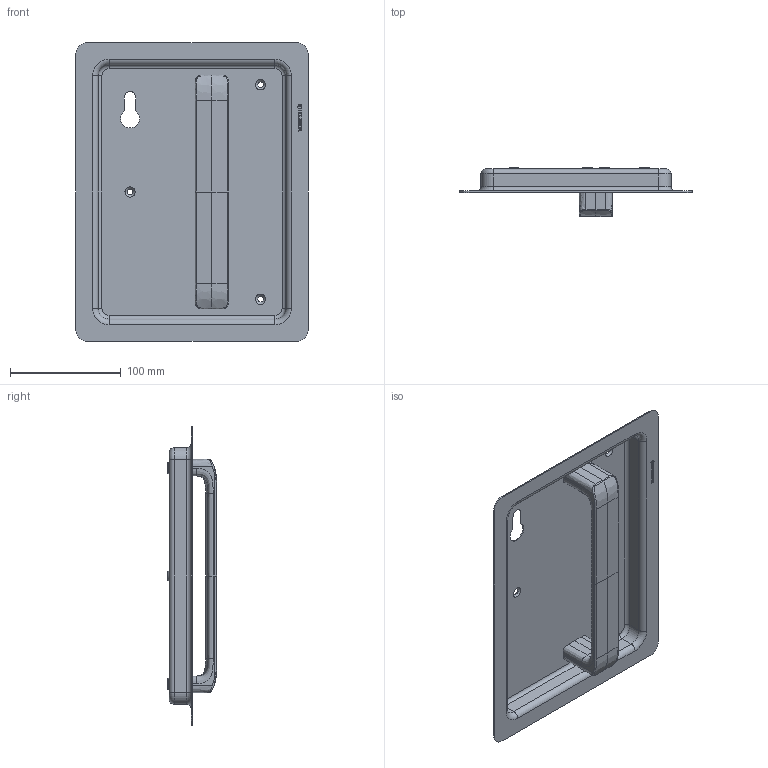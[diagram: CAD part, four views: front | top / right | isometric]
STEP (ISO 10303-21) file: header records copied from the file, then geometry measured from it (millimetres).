
FILE_DESCRIPTION(/* description */ (''),/* implementation_level */ '2;1');
FILE_NAME(/* name */ 'C:\ADSK_DMS_WS\Designs\Vorschläge\Loc Schalen\Heusser Muschel\Heusser-Muschel mit D6\Heusser-Muschel S6.20 mit D6\S6.20.D6.388L..stp',/* time_stamp */ '2025-04-11T10:17:55+02:00',/* author */ ('gm'),/* organization */ (''),/* preprocessor_version */ 'ST-DEVELOPER v17.2',/* originating_system */ 'Autodesk Inventor 2019',/* authorisation */ '');
FILE_SCHEMA (('AUTOMOTIVE_DESIGN { 1 0 10303 214 3 1 1 }'));
Length unit declared in the file: millimetre
Products named in the file (4): S6.20.D6.388L.; D6; M5x10 zu D6; Schale S6.20.R.D6ipt
Assembly tree (6 placements, depth 2):
  S6.20.D6.388L.
    D6
    M5x10 zu D6  x4
    Schale S6.20.R.D6ipt
Bounding box: 210 x 44.5 x 270 mm (x, y, z)
Volume: 151026.3 mm3; surface area: 161590.3 mm2
Topology: 6 solids, 6 shells, 389 faces, 998 edges, 640 vertices
Faces by surface type: plane 127, bspline 98, cylinder 94, cone 50, torus 20
Full cylindrical faces by diameter (mm): 4.134 x4, 5 x4, 5.5 x4, 9 x4
Entity records: 13597 total; most frequent: CARTESIAN_POINT 6480, ORIENTED_EDGE 1572, DIRECTION 1185, EDGE_CURVE 786, VERTEX_POINT 505, LINE 425, VECTOR 425, AXIS2_PLACEMENT_3D 380
